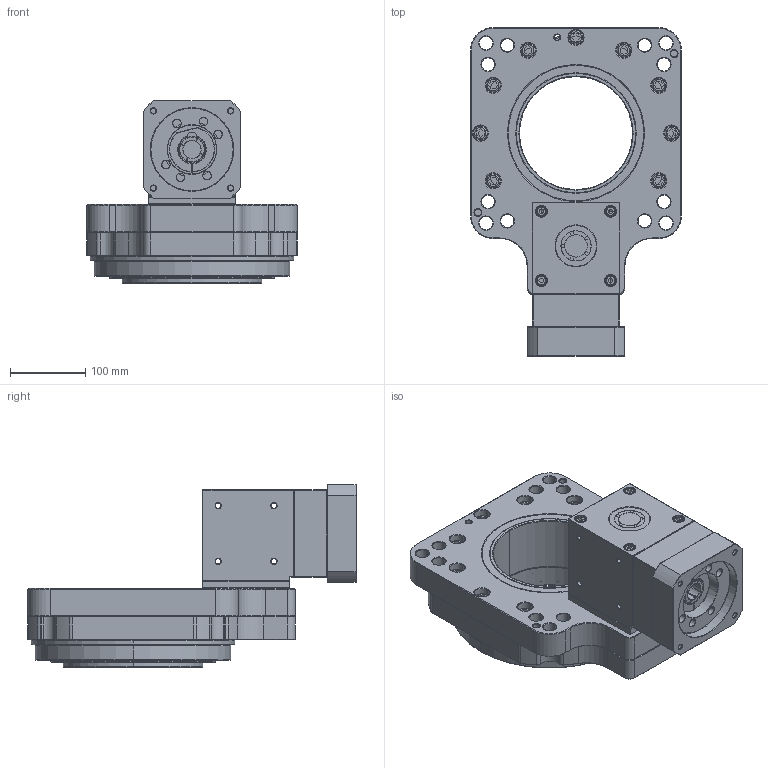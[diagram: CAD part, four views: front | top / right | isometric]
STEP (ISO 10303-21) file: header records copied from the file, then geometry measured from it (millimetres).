
FILE_DESCRIPTION (( 'STEP AP203' ), '1' );
FILE_NAME ('2.STEP', '2022-08-09T06:45:19', ( 'Windows User' ), ( 'P R C' ), 'SwSTEP 2.0', 'SolidWorks 2020', '' );
FILE_SCHEMA (( 'CONFIG_CONTROL_DESIGN' ));
Products named in the file (1): 2
Bounding box: 280 x 436.5 x 242.85 mm (x, y, z)
Surface area: 603268.8 mm2 (no closed solid volume)
Topology: 0 solids, 99 shells, 1503 faces, 4533 edges, 3045 vertices
Faces by surface type: plane 539, cone 420, cylinder 377, torus 167
Entity records: 51483 total; most frequent: CARTESIAN_POINT 10030, DIRECTION 9360, ORIENTED_EDGE 7400, EDGE_CURVE 4495, AXIS2_PLACEMENT_3D 3525, VERTEX_POINT 3045, VECTOR 2310, LINE 2310
